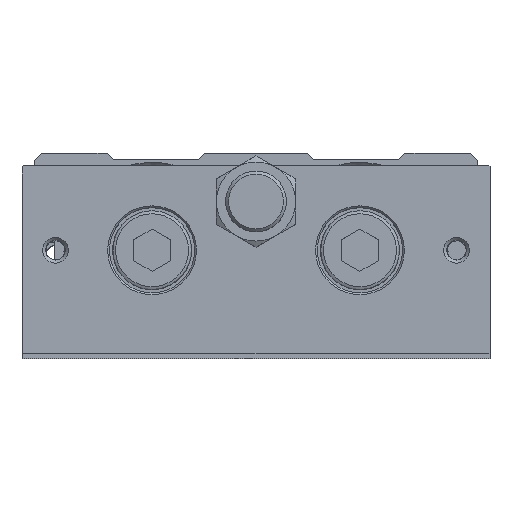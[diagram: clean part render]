
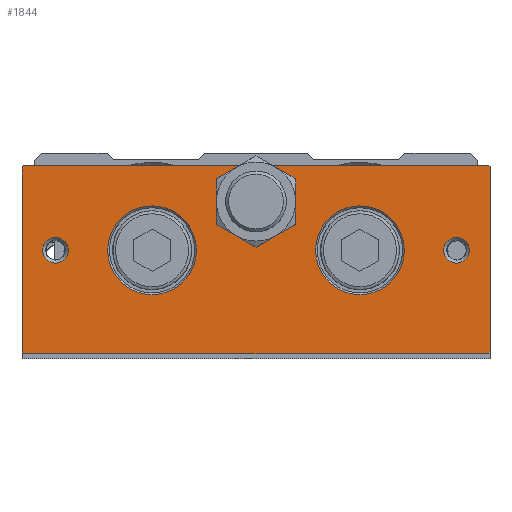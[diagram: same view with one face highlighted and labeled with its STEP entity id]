
A CAD part, top view. The second image highlights one B-rep face of the part: STEP entity #1844.
In plain terms, the highlighted planar face has unit normal (0, 0, 1).
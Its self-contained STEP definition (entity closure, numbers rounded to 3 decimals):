
#1642=CARTESIAN_POINT('',(-38.2,-17.5,279.0));
#1643=VERTEX_POINT('',#1642);
#1650=CARTESIAN_POINT('',(-38.5,-17.2,279.0));
#1651=VERTEX_POINT('',#1650);
#1652=CARTESIAN_POINT('',(-38.2,-17.5,279.0));
#1653=DIRECTION('',(-0.707,0.707,0.0));
#1654=VECTOR('',#1653,0.424);
#1655=LINE('',#1652,#1654);
#1656=EDGE_CURVE('',#1643,#1651,#1655,.T.);
#1667=CARTESIAN_POINT('',(0.0,-17.5,279.0));
#1668=DIRECTION('',(0.0,0.0,1.0));
#1669=DIRECTION('',(1.0,0.0,0.0));
#1670=AXIS2_PLACEMENT_3D('',#1667,#1668,#1669);
#1671=PLANE('',#1670);
#1672=ORIENTED_EDGE('',*,*,#1656,.F.);
#1673=CARTESIAN_POINT('',(38.2,-17.5,279.0));
#1674=VERTEX_POINT('',#1673);
#1675=CARTESIAN_POINT('',(-38.2,-17.5,279.0));
#1676=DIRECTION('',(1.0,0.0,0.0));
#1677=VECTOR('',#1676,76.4);
#1678=LINE('',#1675,#1677);
#1679=EDGE_CURVE('',#1643,#1674,#1678,.T.);
#1680=ORIENTED_EDGE('',*,*,#1679,.T.);
#1681=CARTESIAN_POINT('',(38.5,-17.2,279.0));
#1682=VERTEX_POINT('',#1681);
#1683=CARTESIAN_POINT('',(38.5,-17.2,279.0));
#1684=DIRECTION('',(-0.707,-0.707,0.0));
#1685=VECTOR('',#1684,0.424);
#1686=LINE('',#1683,#1685);
#1687=EDGE_CURVE('',#1682,#1674,#1686,.T.);
#1688=ORIENTED_EDGE('',*,*,#1687,.F.);
#1689=CARTESIAN_POINT('',(38.5,13.2,279.0));
#1690=VERTEX_POINT('',#1689);
#1691=CARTESIAN_POINT('',(38.5,-17.2,279.0));
#1692=DIRECTION('',(0.0,1.0,0.0));
#1693=VECTOR('',#1692,30.4);
#1694=LINE('',#1691,#1693);
#1695=EDGE_CURVE('',#1682,#1690,#1694,.T.);
#1696=ORIENTED_EDGE('',*,*,#1695,.T.);
#1697=CARTESIAN_POINT('',(38.2,13.5,279.0));
#1698=VERTEX_POINT('',#1697);
#1699=CARTESIAN_POINT('',(38.2,13.5,279.0));
#1700=DIRECTION('',(0.707,-0.707,0.0));
#1701=VECTOR('',#1700,0.424);
#1702=LINE('',#1699,#1701);
#1703=EDGE_CURVE('',#1698,#1690,#1702,.T.);
#1704=ORIENTED_EDGE('',*,*,#1703,.F.);
#1705=CARTESIAN_POINT('',(2.5,13.5,279.0));
#1706=VERTEX_POINT('',#1705);
#1707=CARTESIAN_POINT('',(38.2,13.5,279.0));
#1708=DIRECTION('',(-1.0,0.0,0.0));
#1709=VECTOR('',#1708,35.7);
#1710=LINE('',#1707,#1709);
#1711=EDGE_CURVE('',#1698,#1706,#1710,.T.);
#1712=ORIENTED_EDGE('',*,*,#1711,.T.);
#1713=CARTESIAN_POINT('',(3.25,13.129,279.0));
#1714=VERTEX_POINT('',#1713);
#1715=CARTESIAN_POINT('',(0.0,7.5,279.0));
#1716=DIRECTION('',(0.0,0.0,1.0));
#1717=DIRECTION('',(0.0,1.0,0.0));
#1718=AXIS2_PLACEMENT_3D('',#1715,#1716,#1717);
#1719=CIRCLE('',#1718,6.5);
#1720=EDGE_CURVE('',#1714,#1706,#1719,.T.);
#1721=ORIENTED_EDGE('',*,*,#1720,.F.);
#1722=CARTESIAN_POINT('',(6.5,7.5,279.0));
#1723=VERTEX_POINT('',#1722);
#1724=CARTESIAN_POINT('',(0.0,7.5,279.0));
#1725=DIRECTION('',(0.0,0.0,1.0));
#1726=DIRECTION('',(0.0,1.0,0.0));
#1727=AXIS2_PLACEMENT_3D('',#1724,#1725,#1726);
#1728=CIRCLE('',#1727,6.5);
#1729=EDGE_CURVE('',#1723,#1714,#1728,.T.);
#1730=ORIENTED_EDGE('',*,*,#1729,.F.);
#1731=CARTESIAN_POINT('',(3.25,1.871,279.0));
#1732=VERTEX_POINT('',#1731);
#1733=CARTESIAN_POINT('',(0.0,7.5,279.0));
#1734=DIRECTION('',(0.0,0.0,1.0));
#1735=DIRECTION('',(0.0,1.0,0.0));
#1736=AXIS2_PLACEMENT_3D('',#1733,#1734,#1735);
#1737=CIRCLE('',#1736,6.5);
#1738=EDGE_CURVE('',#1732,#1723,#1737,.T.);
#1739=ORIENTED_EDGE('',*,*,#1738,.F.);
#1740=CARTESIAN_POINT('',(-3.25,1.871,279.0));
#1741=VERTEX_POINT('',#1740);
#1742=CARTESIAN_POINT('',(0.0,7.5,279.0));
#1743=DIRECTION('',(0.0,0.0,1.0));
#1744=DIRECTION('',(0.0,1.0,0.0));
#1745=AXIS2_PLACEMENT_3D('',#1742,#1743,#1744);
#1746=CIRCLE('',#1745,6.5);
#1747=EDGE_CURVE('',#1741,#1732,#1746,.T.);
#1748=ORIENTED_EDGE('',*,*,#1747,.F.);
#1749=CARTESIAN_POINT('',(-6.5,7.5,279.0));
#1750=VERTEX_POINT('',#1749);
#1751=CARTESIAN_POINT('',(0.0,7.5,279.0));
#1752=DIRECTION('',(0.0,0.0,1.0));
#1753=DIRECTION('',(0.0,1.0,0.0));
#1754=AXIS2_PLACEMENT_3D('',#1751,#1752,#1753);
#1755=CIRCLE('',#1754,6.5);
#1756=EDGE_CURVE('',#1750,#1741,#1755,.T.);
#1757=ORIENTED_EDGE('',*,*,#1756,.F.);
#1758=CARTESIAN_POINT('',(-3.25,13.129,279.0));
#1759=VERTEX_POINT('',#1758);
#1760=CARTESIAN_POINT('',(0.0,7.5,279.0));
#1761=DIRECTION('',(0.0,0.0,1.0));
#1762=DIRECTION('',(0.0,1.0,0.0));
#1763=AXIS2_PLACEMENT_3D('',#1760,#1761,#1762);
#1764=CIRCLE('',#1763,6.5);
#1765=EDGE_CURVE('',#1759,#1750,#1764,.T.);
#1766=ORIENTED_EDGE('',*,*,#1765,.F.);
#1767=CARTESIAN_POINT('',(-2.5,13.5,279.0));
#1768=VERTEX_POINT('',#1767);
#1769=CARTESIAN_POINT('',(0.0,7.5,279.0));
#1770=DIRECTION('',(0.0,0.0,1.0));
#1771=DIRECTION('',(0.0,1.0,0.0));
#1772=AXIS2_PLACEMENT_3D('',#1769,#1770,#1771);
#1773=CIRCLE('',#1772,6.5);
#1774=EDGE_CURVE('',#1768,#1759,#1773,.T.);
#1775=ORIENTED_EDGE('',*,*,#1774,.F.);
#1776=CARTESIAN_POINT('',(-38.2,13.5,279.0));
#1777=VERTEX_POINT('',#1776);
#1778=CARTESIAN_POINT('',(-2.5,13.5,279.0));
#1779=DIRECTION('',(-1.0,0.0,0.0));
#1780=VECTOR('',#1779,35.7);
#1781=LINE('',#1778,#1780);
#1782=EDGE_CURVE('',#1768,#1777,#1781,.T.);
#1783=ORIENTED_EDGE('',*,*,#1782,.T.);
#1784=CARTESIAN_POINT('',(-38.5,13.2,279.0));
#1785=VERTEX_POINT('',#1784);
#1786=CARTESIAN_POINT('',(-38.5,13.2,279.0));
#1787=DIRECTION('',(0.707,0.707,0.0));
#1788=VECTOR('',#1787,0.424);
#1789=LINE('',#1786,#1788);
#1790=EDGE_CURVE('',#1785,#1777,#1789,.T.);
#1791=ORIENTED_EDGE('',*,*,#1790,.F.);
#1792=CARTESIAN_POINT('',(-38.5,13.2,279.0));
#1793=DIRECTION('',(0.0,-1.0,0.0));
#1794=VECTOR('',#1793,30.4);
#1795=LINE('',#1792,#1794);
#1796=EDGE_CURVE('',#1785,#1651,#1795,.T.);
#1797=ORIENTED_EDGE('',*,*,#1796,.T.);
#1798=EDGE_LOOP('',(#1672,#1680,#1688,#1696,#1704,#1712,#1721,#1730,#1739,#1748,#1757,#1766,#1775,#1783,#1791,#1797));
#1799=FACE_OUTER_BOUND('',#1798,.T.);
#1800=CARTESIAN_POINT('',(-9.8,-0.5,279.0));
#1801=VERTEX_POINT('',#1800);
#1802=CARTESIAN_POINT('',(-17.1,-0.5,279.0));
#1803=DIRECTION('',(0.0,0.0,1.0));
#1804=DIRECTION('',(-1.0,0.0,0.0));
#1805=AXIS2_PLACEMENT_3D('',#1802,#1803,#1804);
#1806=CIRCLE('',#1805,7.3);
#1807=EDGE_CURVE('',#1801,#1801,#1806,.T.);
#1808=ORIENTED_EDGE('',*,*,#1807,.F.);
#1809=EDGE_LOOP('',(#1808));
#1810=FACE_BOUND('',#1809,.T.);
#1811=CARTESIAN_POINT('',(35.121,-0.5,279.0));
#1812=VERTEX_POINT('',#1811);
#1813=CARTESIAN_POINT('',(33.0,-0.5,279.0));
#1814=DIRECTION('',(0.0,0.0,1.0));
#1815=DIRECTION('',(-1.0,0.0,0.0));
#1816=AXIS2_PLACEMENT_3D('',#1813,#1814,#1815);
#1817=CIRCLE('',#1816,2.121);
#1818=EDGE_CURVE('',#1812,#1812,#1817,.T.);
#1819=ORIENTED_EDGE('',*,*,#1818,.F.);
#1820=EDGE_LOOP('',(#1819));
#1821=FACE_BOUND('',#1820,.T.);
#1822=CARTESIAN_POINT('',(-30.879,-0.5,279.0));
#1823=VERTEX_POINT('',#1822);
#1824=CARTESIAN_POINT('',(-33.0,-0.5,279.0));
#1825=DIRECTION('',(0.0,0.0,1.0));
#1826=DIRECTION('',(-1.0,0.0,0.0));
#1827=AXIS2_PLACEMENT_3D('',#1824,#1825,#1826);
#1828=CIRCLE('',#1827,2.121);
#1829=EDGE_CURVE('',#1823,#1823,#1828,.T.);
#1830=ORIENTED_EDGE('',*,*,#1829,.F.);
#1831=EDGE_LOOP('',(#1830));
#1832=FACE_BOUND('',#1831,.T.);
#1833=CARTESIAN_POINT('',(24.4,-0.5,279.0));
#1834=VERTEX_POINT('',#1833);
#1835=CARTESIAN_POINT('',(17.1,-0.5,279.0));
#1836=DIRECTION('',(0.0,0.0,1.0));
#1837=DIRECTION('',(-1.0,0.0,0.0));
#1838=AXIS2_PLACEMENT_3D('',#1835,#1836,#1837);
#1839=CIRCLE('',#1838,7.3);
#1840=EDGE_CURVE('',#1834,#1834,#1839,.T.);
#1841=ORIENTED_EDGE('',*,*,#1840,.F.);
#1842=EDGE_LOOP('',(#1841));
#1843=FACE_BOUND('',#1842,.T.);
#1844=ADVANCED_FACE('',(#1799,#1810,#1821,#1832,#1843),#1671,.T.);
